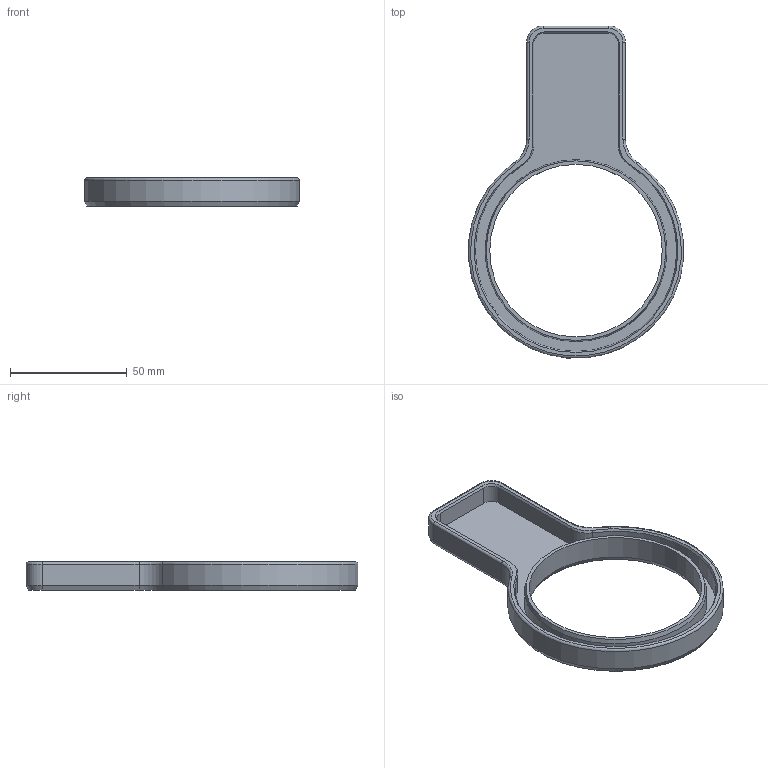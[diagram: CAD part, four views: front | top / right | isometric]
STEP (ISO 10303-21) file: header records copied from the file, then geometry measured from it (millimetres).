
FILE_DESCRIPTION(/* description */ ('','CAx-IF Rec.Pracs.---Representation and Presentation of Product Manufacturing Information (PMI)---4.0---2014-10-13'),/* implementation_level */ '2;1');
FILE_NAME(/* name */ '01_Getraenkehalter_Teil-03.step',/* time_stamp */ '2024-12-13T16:37:07+01:00',/* author */ (''),/* organization */ (''),/* preprocessor_version */ 'ST-DEVELOPER v20',/* originating_system */ 'Autodesk Translation Framework v13.20.0.188',/* authorisation */ '');
FILE_SCHEMA (('AP242_MANAGED_MODEL_BASED_3D_ENGINEERING_MIM_LF { 1 0 10303 442 1 1 4 }'));
Length unit declared in the file: millimetre
Products named in the file (1): 01_Getraenkehalter_B03
Bounding box: 91.87 x 142.02 x 12 mm (x, y, z)
Volume: 27486.8 mm3; surface area: 21249 mm2
Topology: 1 solids, 1 shells, 48 faces, 106 edges, 62 vertices
Faces by surface type: plane 16, cylinder 15, cone 12, torus 5
Full cylindrical faces by diameter (mm): 73.8 x1, 77.8 x1
Entity records: 1348 total; most frequent: DIRECTION 253, CARTESIAN_POINT 217, ORIENTED_EDGE 212, EDGE_CURVE 106, AXIS2_PLACEMENT_3D 98, VERTEX_POINT 62, LINE 57, VECTOR 57
